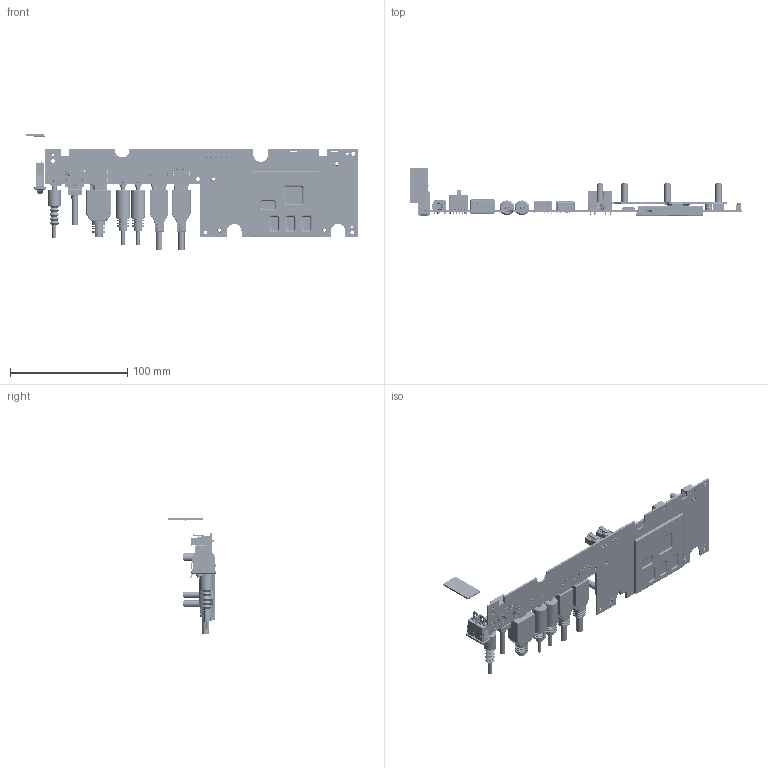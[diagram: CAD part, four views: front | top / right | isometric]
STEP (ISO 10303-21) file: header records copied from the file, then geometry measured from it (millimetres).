
FILE_DESCRIPTION((''),'2;1');
FILE_NAME('SWAN_PCB_ASSEMBLY_ASM','2020-08-12T',('G6003023'),(''),'PRO/ENGINEER BY PARAMETRIC TECHNOLOGY CORPORATION, 2013150','PRO/ENGINEER BY PARAMETRIC TECHNOLOGY CORPORATION, 2013150','');
FILE_SCHEMA(('CONFIG_CONTROL_DESIGN'));
Products named in the file (84): SWAN_PCB; SHD-6012D01-BLTN-T1-CUSTOMER; F860; MSBR-21; MSBR-20; MSBR-19; MSBR-18; MSBR-17; MSBR-16; MSBR-15; MSBR-14; MSBR-13; MSBR-12; MSBR-11; MSBR-10; MSBR-9; MSBR-8; MSBR-7; MSBR-6; MSBR-5; MSBR-4; MSBR-3; MSBR-2; MSBR-1; QJ-WFB4-IM_0325_ASM; 2SJ2296-000111; MSBR-1-011; _UB1112C-4K1-4F_3D-01; UB1112C-4K1-4F_3D-01_ASM; UEA1112C-4HK1-4F_3D; 86514-02XX_REV-1; POWER-PLUG; USB_PLUG; HDMI_CABLE_1; RJ45_PLUG; AUX_PLUG; SHIELDING_FRAME_TOP; SHIELDING_COVER_TOP; THERMAL-PAD-SOC-CUP-1-K5; SHIELDING_COVER_TOP_ASSY_ASM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
Assembly tree (103 placements, depth 4):
  SWAN_PCB_ASSEMBLY_ASM
    SWAN_PCB
    SHD-6012D01-BLTN-T1-CUSTOMER
    F860
    QJ-WFB4-IM_0325_ASM
      MSBR-21
      MSBR-20
      MSBR-19
      MSBR-18
      MSBR-17
      MSBR-16
      MSBR-15
      MSBR-14
      MSBR-13
      MSBR-12
      MSBR-11
      MSBR-10
      MSBR-9
      MSBR-8
      MSBR-7
      MSBR-6
      MSBR-5
      MSBR-4
      MSBR-3
      MSBR-2
      MSBR-1
    2SJ2296-000111  x2
    UB1112C-4K1-4F_3D-01_ASM
      MSBR-1-011
      _UB1112C-4K1-4F_3D-01
    UEA1112C-4HK1-4F_3D
    86514-02XX_REV-1  x2
    POWER-PLUG
    USB_PLUG  x2
    HDMI_CABLE_1
    RJ45_PLUG
    AUX_PLUG  x2
    SHIELDING_TOP_SOC_ASSY_ASM
      SHIELDING_FRAME_TOP
      SHIELDING_COVER_TOP_ASSY_ASM
        SHIELDING_COVER_TOP
        THERMAL-PAD-SOC-CUP-1-K5
    SHIELDING_BOTTOM_ASSY_ASM
      SHIELDING_FRAME_SOC
      SHIELDING_BOTTOM_SOC_ASSY_ASM
        SHIELDING_COVER_SOC
        THERMAL_PAD_SOC_02-K5
        THERMAL_PAD_SOC_03-K5  x4
    ANT_DUAL_ASM
      ANT_SPONGE
      ANT_PCB
      ANT_PCB_CABLE_1
    TBGA-14X14-153-H0_8
    UBGA-35X35-463S0
    FBGA-16X9-96CS0  x4
    STAND-NUT-411-00041-005  x4
    HEAT_SPREADER_TOP_SOC_ASSY_ASM
      HEAT_SPREADER_TOP_SOC
      STAND-OFF-M3-02  x5
      THERMAL-PAD-SOC-CUP-1-K5
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Bounding box: 282.94 x 40.87 x 98.96 mm (x, y, z)
Volume: 78639.1 mm3; surface area: 114957 mm2
Topology: 103 solids, 132 shells, 13569 faces, 37623 edges, 24390 vertices
Faces by surface type: plane 9689, cylinder 3012, bspline 398, cone 139, extrusion 126, torus 107, sphere 98
Entity records: 378843 total; most frequent: CARTESIAN_POINT 86757, ORIENTED_EDGE 62504, DIRECTION 57577, EDGE_CURVE 31252, VECTOR 24749, LINE 24625, VERTEX_POINT 20275, AXIS2_PLACEMENT_3D 16414
